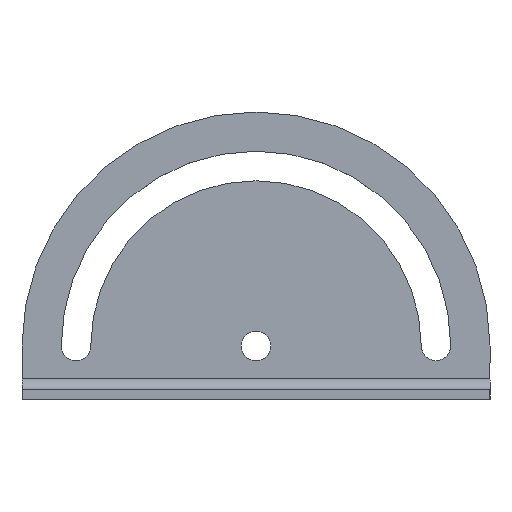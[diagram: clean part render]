
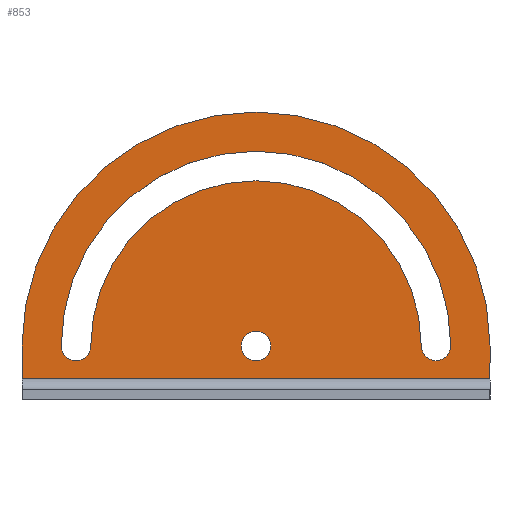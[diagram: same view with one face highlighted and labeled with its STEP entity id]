
A CAD part, top view. The second image highlights one B-rep face of the part: STEP entity #853.
In plain terms, the highlighted planar face has unit normal (0, 0, 1).
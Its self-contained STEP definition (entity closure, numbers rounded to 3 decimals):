
#49=CARTESIAN_POINT('',(-65.,6.,3.));
#50=VERTEX_POINT('',#49);
#68=CARTESIAN_POINT('',(65.,6.,3.));
#69=VERTEX_POINT('',#68);
#77=CARTESIAN_POINT('',(65.,6.,3.));
#78=DIRECTION('',(-1.0,0.0,0.0));
#79=VECTOR('',#78,130.);
#80=LINE('',#77,#79);
#81=EDGE_CURVE('',#69,#50,#80,.T.);
#348=CARTESIAN_POINT('',(65.0,15.,3.));
#349=VERTEX_POINT('',#348);
#356=CARTESIAN_POINT('',(65.0,15.,3.));
#357=DIRECTION('',(0.0,-1.0,0.0));
#358=VECTOR('',#357,9.);
#359=LINE('',#356,#358);
#360=EDGE_CURVE('',#349,#69,#359,.T.);
#526=CARTESIAN_POINT('',(-45.9,15.,3.));
#527=VERTEX_POINT('',#526);
#534=CARTESIAN_POINT('',(45.9,15.,3.));
#535=VERTEX_POINT('',#534);
#536=CARTESIAN_POINT('',(0.0,15.,3.));
#537=DIRECTION('',(0.0,0.0,1.0));
#538=DIRECTION('',(-1.0,0.0,0.0));
#539=AXIS2_PLACEMENT_3D('',#536,#537,#538);
#540=CIRCLE('',#539,45.9);
#541=EDGE_CURVE('',#535,#527,#540,.T.);
#566=CARTESIAN_POINT('',(45.95,15.,3.));
#567=VERTEX_POINT('',#566);
#568=CARTESIAN_POINT('',(45.95,15.,3.));
#569=DIRECTION('',(-1.0,0.,0.0));
#570=VECTOR('',#569,0.05);
#571=LINE('',#568,#570);
#572=EDGE_CURVE('',#567,#535,#571,.T.);
#598=CARTESIAN_POINT('',(54.05,15.,3.));
#599=VERTEX_POINT('',#598);
#600=CARTESIAN_POINT('',(50.0,15.,3.));
#601=DIRECTION('',(0.0,0.0,-1.0));
#602=DIRECTION('',(-1.0,0.0,0.0));
#603=AXIS2_PLACEMENT_3D('',#600,#601,#602);
#604=CIRCLE('',#603,4.05);
#605=EDGE_CURVE('',#599,#567,#604,.T.);
#630=CARTESIAN_POINT('',(54.1,15.,3.));
#631=VERTEX_POINT('',#630);
#632=CARTESIAN_POINT('',(54.1,15.,3.));
#633=DIRECTION('',(-1.0,0.0,0.0));
#634=VECTOR('',#633,0.05);
#635=LINE('',#632,#634);
#636=EDGE_CURVE('',#631,#599,#635,.T.);
#662=CARTESIAN_POINT('',(-54.1,15.,3.));
#663=VERTEX_POINT('',#662);
#664=CARTESIAN_POINT('',(0.0,15.,3.));
#665=DIRECTION('',(0.0,0.0,-1.0));
#666=DIRECTION('',(1.0,0.0,0.0));
#667=AXIS2_PLACEMENT_3D('',#664,#665,#666);
#668=CIRCLE('',#667,54.1);
#669=EDGE_CURVE('',#663,#631,#668,.T.);
#693=CARTESIAN_POINT('',(-50.0,15.,3.));
#694=DIRECTION('',(0.0,0.0,-1.0));
#695=DIRECTION('',(1.0,0.0,0.0));
#696=AXIS2_PLACEMENT_3D('',#693,#694,#695);
#697=CIRCLE('',#696,4.1);
#698=EDGE_CURVE('',#527,#663,#697,.T.);
#720=CARTESIAN_POINT('',(4.1,15.,3.));
#721=VERTEX_POINT('',#720);
#722=CARTESIAN_POINT('',(0.0,15.,3.));
#723=DIRECTION('',(0.0,0.0,-1.0));
#724=DIRECTION('',(-1.0,0.0,0.0));
#725=AXIS2_PLACEMENT_3D('',#722,#723,#724);
#726=CIRCLE('',#725,4.1);
#727=EDGE_CURVE('',#721,#721,#726,.T.);
#754=CARTESIAN_POINT('',(-65.0,15.,3.));
#755=VERTEX_POINT('',#754);
#756=CARTESIAN_POINT('',(0.0,15.,3.));
#757=DIRECTION('',(0.0,0.0,-1.0));
#758=DIRECTION('',(1.0,0.0,0.0));
#759=AXIS2_PLACEMENT_3D('',#756,#757,#758);
#760=CIRCLE('',#759,65.);
#761=EDGE_CURVE('',#755,#349,#760,.T.);
#792=CARTESIAN_POINT('',(-65.,6.,3.));
#793=DIRECTION('',(0.0,1.0,0.0));
#794=VECTOR('',#793,9.);
#795=LINE('',#792,#794);
#796=EDGE_CURVE('',#50,#755,#795,.T.);
#831=CARTESIAN_POINT('',(0.,7.5,3.));
#832=DIRECTION('',(0.0,0.0,1.0));
#833=DIRECTION('',(1.0,0.0,0.0));
#834=AXIS2_PLACEMENT_3D('',#831,#832,#833);
#835=PLANE('',#834);
#836=ORIENTED_EDGE('',*,*,#81,.F.);
#837=ORIENTED_EDGE('',*,*,#360,.F.);
#838=ORIENTED_EDGE('',*,*,#761,.F.);
#839=ORIENTED_EDGE('',*,*,#796,.F.);
#840=EDGE_LOOP('',(#836,#837,#838,#839));
#841=FACE_OUTER_BOUND('',#840,.T.);
#842=ORIENTED_EDGE('',*,*,#636,.T.);
#843=ORIENTED_EDGE('',*,*,#605,.T.);
#844=ORIENTED_EDGE('',*,*,#572,.T.);
#845=ORIENTED_EDGE('',*,*,#541,.T.);
#846=ORIENTED_EDGE('',*,*,#698,.T.);
#847=ORIENTED_EDGE('',*,*,#669,.T.);
#848=EDGE_LOOP('',(#842,#843,#844,#845,#846,#847));
#849=FACE_BOUND('',#848,.T.);
#850=ORIENTED_EDGE('',*,*,#727,.T.);
#851=EDGE_LOOP('',(#850));
#852=FACE_BOUND('',#851,.T.);
#853=ADVANCED_FACE('',(#841,#849,#852),#835,.T.);
